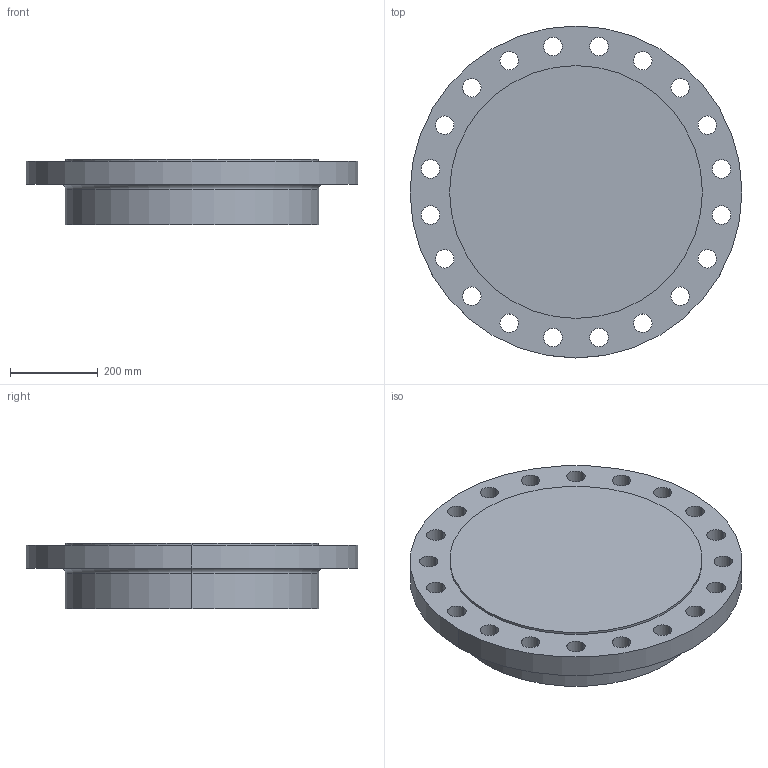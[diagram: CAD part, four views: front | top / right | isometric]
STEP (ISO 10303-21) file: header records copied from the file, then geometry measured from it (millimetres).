
FILE_DESCRIPTION (( 'STEP AP214' ), '1' );
FILE_NAME ('PN40 DN500 Type 21(i) - Type E Face.STEP', '2018-12-29T04:25:54', ( '' ), ( '' ), 'SwSTEP 2.0', 'SolidWorks 2019', '' );
FILE_SCHEMA (( 'AUTOMOTIVE_DESIGN' ));
Length unit declared in the file: millimetre
Products named in the file (1): PN40 DN500 Type 21(i) - Type E Face
Bounding box: 755 x 755 x 150 mm (x, y, z)
Volume: 47347599 mm3; surface area: 1267001.9 mm2
Topology: 1 solids, 1 shells, 52 faces, 142 edges, 94 vertices
Faces by surface type: cylinder 46, plane 4, torus 2
Entity records: 1820 total; most frequent: DIRECTION 344, CARTESIAN_POINT 289, ORIENTED_EDGE 284, AXIS2_PLACEMENT_3D 149, EDGE_CURVE 142, CIRCLE 96, VERTEX_POINT 94, EDGE_LOOP 94
